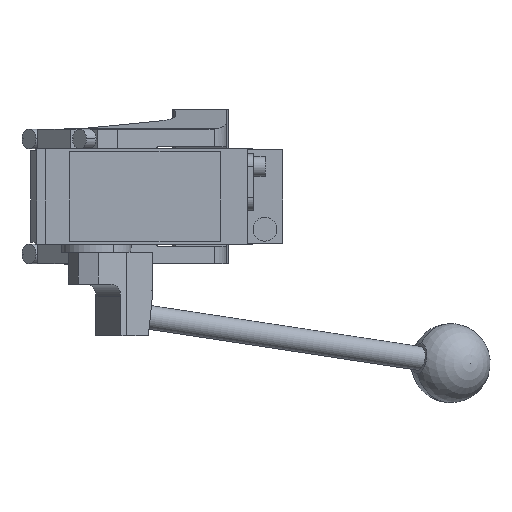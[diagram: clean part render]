
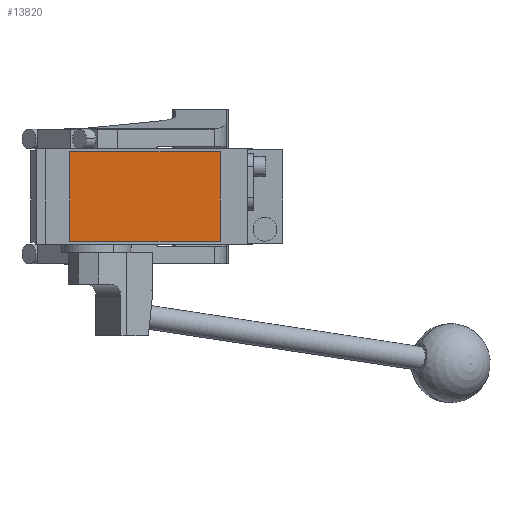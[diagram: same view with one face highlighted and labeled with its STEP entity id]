
A CAD part, front view. The second image highlights one B-rep face of the part: STEP entity #13820.
In plain terms, the highlighted planar face has unit normal (0, -1, 0).
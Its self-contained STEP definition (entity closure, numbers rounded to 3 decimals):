
#24 = ORIENTED_EDGE ( 'NONE', *, *, #13245, .T. ) ;
#331 = DIRECTION ( 'NONE',  ( 0., 0., -1. ) ) ;
#376 = CARTESIAN_POINT ( 'NONE',  ( -7., -280.5, 22.5 ) ) ;
#993 = CARTESIAN_POINT ( 'NONE',  ( 69., -280.5, -22.5 ) ) ;
#1140 = DIRECTION ( 'NONE',  ( 1., 0., 0. ) ) ;
#1291 = VECTOR ( 'NONE', #8654, 1000. ) ;
#1293 = LINE ( 'NONE', #13040, #8259 ) ;
#1517 = DIRECTION ( 'NONE',  ( 0., 0., 1. ) ) ;
#1663 = CARTESIAN_POINT ( 'NONE',  ( -7., -280.5, 22.5 ) ) ;
#2077 = VERTEX_POINT ( 'NONE', #993 ) ;
#2290 = LINE ( 'NONE', #11533, #9526 ) ;
#2663 = EDGE_LOOP ( 'NONE', ( #12723, #13730, #24, #14479 ) ) ;
#2878 = DIRECTION ( 'NONE',  ( -1., 0., 0. ) ) ;
#3011 = EDGE_CURVE ( 'NONE', #6330, #2077, #2290, .T. ) ;
#3052 = EDGE_CURVE ( 'NONE', #8411, #3158, #7289, .T. ) ;
#3114 = EDGE_CURVE ( 'NONE', #3158, #6330, #3998, .T. ) ;
#3158 = VERTEX_POINT ( 'NONE', #14474 ) ;
#3386 = AXIS2_PLACEMENT_3D ( 'NONE', #3790, #13146, #331 ) ;
#3790 = CARTESIAN_POINT ( 'NONE',  ( 0., -280.5, 0. ) ) ;
#3998 = LINE ( 'NONE', #1663, #1291 ) ;
#6330 = VERTEX_POINT ( 'NONE', #14984 ) ;
#7289 = LINE ( 'NONE', #376, #12431 ) ;
#8259 = VECTOR ( 'NONE', #1517, 1000. ) ;
#8411 = VERTEX_POINT ( 'NONE', #9646 ) ;
#8654 = DIRECTION ( 'NONE',  ( 0., 0., -1. ) ) ;
#9526 = VECTOR ( 'NONE', #1140, 1000. ) ;
#9646 = CARTESIAN_POINT ( 'NONE',  ( 69., -280.5, 22.5 ) ) ;
#11533 = CARTESIAN_POINT ( 'NONE',  ( -7., -280.5, -22.5 ) ) ;
#12431 = VECTOR ( 'NONE', #2878, 1000. ) ;
#12723 = ORIENTED_EDGE ( 'NONE', *, *, #3114, .T. ) ;
#13040 = CARTESIAN_POINT ( 'NONE',  ( 69., -280.5, 22.5 ) ) ;
#13146 = DIRECTION ( 'NONE',  ( 0., -1., 0. ) ) ;
#13214 = FACE_OUTER_BOUND ( 'NONE', #2663, .T. ) ;
#13245 = EDGE_CURVE ( 'NONE', #2077, #8411, #1293, .T. ) ;
#13730 = ORIENTED_EDGE ( 'NONE', *, *, #3011, .T. ) ;
#13820 = ADVANCED_FACE ( 'NONE', ( #13214 ), #14205, .T. ) ;
#14205 = PLANE ( 'NONE',  #3386 ) ;
#14474 = CARTESIAN_POINT ( 'NONE',  ( -7., -280.5, 22.5 ) ) ;
#14479 = ORIENTED_EDGE ( 'NONE', *, *, #3052, .T. ) ;
#14984 = CARTESIAN_POINT ( 'NONE',  ( -7., -280.5, -22.5 ) ) ;
